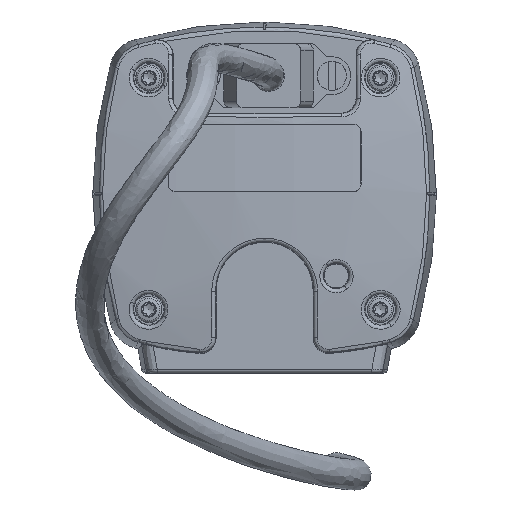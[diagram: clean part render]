
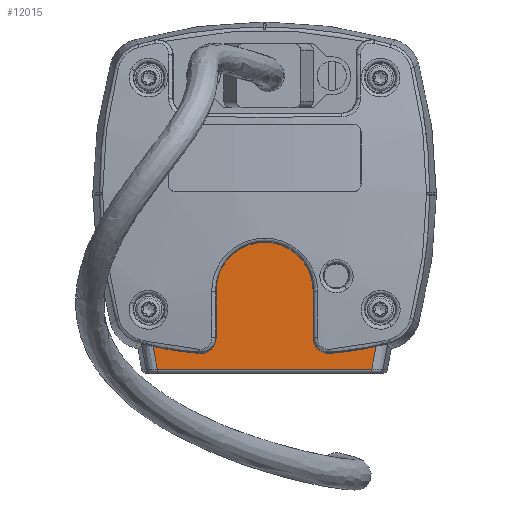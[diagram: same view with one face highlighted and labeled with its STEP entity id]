
A CAD part, left-side view. The second image highlights one B-rep face of the part: STEP entity #12015.
In plain terms, the highlighted planar face has unit normal (-1, 0, 0).
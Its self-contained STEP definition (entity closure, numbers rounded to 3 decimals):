
#644=ELLIPSE('',#13169,2.031,2.001);
#649=ELLIPSE('',#13183,2.031,2.001);
#650=ELLIPSE('',#13185,49.312,45.3);
#651=ELLIPSE('',#13186,49.312,45.3);
#1305=LINE('',#26440,#1911);
#1307=LINE('',#26448,#1913);
#1311=LINE('',#27009,#1917);
#1312=LINE('',#27011,#1918);
#1313=LINE('',#27013,#1919);
#1911=VECTOR('',#15638,1000.);
#1913=VECTOR('',#15648,1000.);
#1917=VECTOR('',#15686,10.);
#1918=VECTOR('',#15687,1000.);
#1919=VECTOR('',#15688,10.);
#2806=FACE_OUTER_BOUND('',#3641,.T.);
#3641=EDGE_LOOP('',(#9033,#9034,#9035,#9036,#9037,#9038,#9039,#9040,#9041,
#9042));
#4349=CIRCLE('',#13165,6.5);
#5234=VERTEX_POINT('',#26436);
#5235=VERTEX_POINT('',#26438);
#5236=VERTEX_POINT('',#26442);
#5237=VERTEX_POINT('',#26446);
#5238=VERTEX_POINT('',#26461);
#5251=VERTEX_POINT('',#27003);
#5252=VERTEX_POINT('',#27007);
#5253=VERTEX_POINT('',#27008);
#5254=VERTEX_POINT('',#27010);
#5255=VERTEX_POINT('',#27012);
#6598=EDGE_CURVE('',#5234,#5235,#1305,.T.);
#6600=EDGE_CURVE('',#5236,#5234,#4349,.T.);
#6602=EDGE_CURVE('',#5237,#5236,#1307,.T.);
#6604=EDGE_CURVE('',#5238,#5237,#644,.T.);
#6627=EDGE_CURVE('',#5235,#5251,#649,.T.);
#6628=EDGE_CURVE('',#5252,#5253,#1311,.T.);
#6629=EDGE_CURVE('',#5253,#5254,#1312,.T.);
#6630=EDGE_CURVE('',#5254,#5255,#1313,.T.);
#6631=EDGE_CURVE('',#5255,#5238,#650,.T.);
#6632=EDGE_CURVE('',#5251,#5252,#651,.T.);
#9033=ORIENTED_EDGE('',*,*,#6628,.T.);
#9034=ORIENTED_EDGE('',*,*,#6629,.T.);
#9035=ORIENTED_EDGE('',*,*,#6630,.T.);
#9036=ORIENTED_EDGE('',*,*,#6631,.T.);
#9037=ORIENTED_EDGE('',*,*,#6604,.T.);
#9038=ORIENTED_EDGE('',*,*,#6602,.T.);
#9039=ORIENTED_EDGE('',*,*,#6600,.T.);
#9040=ORIENTED_EDGE('',*,*,#6598,.T.);
#9041=ORIENTED_EDGE('',*,*,#6627,.T.);
#9042=ORIENTED_EDGE('',*,*,#6632,.T.);
#10816=PLANE('',#13184);
#12015=ADVANCED_FACE('',(#2806),#10816,.F.);
#13165=AXIS2_PLACEMENT_3D('',#26444,#15642,#15643);
#13169=AXIS2_PLACEMENT_3D('',#26463,#15651,#15652);
#13183=AXIS2_PLACEMENT_3D('',#27005,#15682,#15683);
#13184=AXIS2_PLACEMENT_3D('',#27006,#15684,#15685);
#13185=AXIS2_PLACEMENT_3D('',#27014,#15689,#15690);
#13186=AXIS2_PLACEMENT_3D('',#27015,#15691,#15692);
#15638=DIRECTION('',(0.,0.,-1.));
#15642=DIRECTION('center_axis',(-1.,0.,0.));
#15643=DIRECTION('ref_axis',(0.,1.,0.));
#15648=DIRECTION('',(0.,0.,1.));
#15651=DIRECTION('center_axis',(1.,0.,0.));
#15652=DIRECTION('ref_axis',(0.,-0.209,0.978));
#15682=DIRECTION('center_axis',(1.,0.,0.));
#15683=DIRECTION('ref_axis',(0.,0.209,0.978));
#15684=DIRECTION('center_axis',(1.,0.,0.));
#15685=DIRECTION('ref_axis',(0.,1.,0.));
#15686=DIRECTION('',(0.,-0.175,-0.985));
#15687=DIRECTION('',(0.,-1.,0.));
#15688=DIRECTION('',(0.,-0.175,0.985));
#15689=DIRECTION('center_axis',(1.,0.,0.));
#15690=DIRECTION('ref_axis',(0.,0.214,0.977));
#15691=DIRECTION('center_axis',(1.,0.,0.));
#15692=DIRECTION('ref_axis',(0.,-0.214,0.977));
#26436=CARTESIAN_POINT('',(-85.716,5.135,-13.));
#26438=CARTESIAN_POINT('',(-85.716,5.135,-19.373));
#26440=CARTESIAN_POINT('',(-85.716,5.135,-13.));
#26442=CARTESIAN_POINT('',(-85.716,-7.865,-13.));
#26444=CARTESIAN_POINT('Origin',(-85.716,-1.365,-13.));
#26446=CARTESIAN_POINT('',(-85.716,-7.865,-19.373));
#26448=CARTESIAN_POINT('',(-85.716,-7.865,-13.));
#26461=CARTESIAN_POINT('',(-85.716,-10.001,-21.385));
#26463=CARTESIAN_POINT('Origin',(-85.716,-9.867,-19.361));
#27003=CARTESIAN_POINT('',(-85.716,7.27,-21.385));
#27005=CARTESIAN_POINT('Origin',(-85.716,7.137,-19.361));
#27006=CARTESIAN_POINT('Origin',(-85.716,-24.365,-24.));
#27007=CARTESIAN_POINT('',(-85.716,13.547,-20.435));
#27008=CARTESIAN_POINT('',(-85.716,13.002,-23.5));
#27009=CARTESIAN_POINT('',(-85.716,13.547,-20.435));
#27010=CARTESIAN_POINT('',(-85.716,-15.732,-23.5));
#27011=CARTESIAN_POINT('',(-85.716,-24.365,-23.5));
#27012=CARTESIAN_POINT('',(-85.716,-16.277,-20.435));
#27013=CARTESIAN_POINT('',(-85.716,-15.732,-23.5));
#27014=CARTESIAN_POINT('Origin',(-85.716,-5.286,27.636));
#27015=CARTESIAN_POINT('Origin',(-85.716,2.555,27.636));
